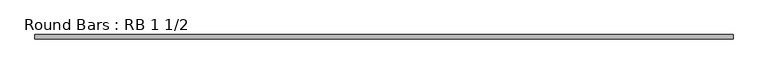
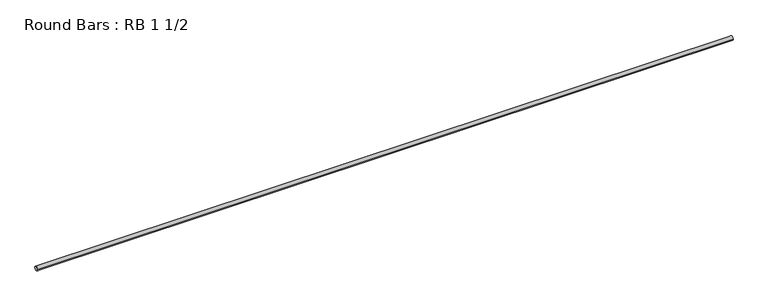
"""IFC4 building model written with IfcOpenShell, lengths in millimetres: member geometry, Round Bars : RB 1 1/2."""

import ifcopenshell
import ifcopenshell.guid

model = None  # the IFC model being written
_history = None  # IfcOwnerHistory: only IFC2X3 demands one
_inside = {}  # id of a spatial element -> (the spatial element, [elements in it])
_under = {}  # id of a project, library or spatial element -> (it, [spatial elements below it])
_declared = {}  # id of a project -> (the project, [libraries it declares])
_typed = {}  # id of a type object -> (the type object, [elements of that type])
_made_of = {}  # id of a material, layer set ... -> (it, [elements and type objects made of it])


def new_model(schema):
    """Start an empty IFC model of exactly this schema.

    Asked for "IFC4X3", IfcOpenShell would pick the latest addendum, in which some entities
    have other attributes; the version numbers below select the first issue.
    IFC2X3 requires an IfcOwnerHistory on every rooted entity: one is made here for all.
    """
    global model, _history
    if schema == "IFC4X3":
        model = ifcopenshell.file(schema_version=(4, 3, 0, 0))
    else:
        model = ifcopenshell.file(schema=schema)
    _inside.clear()
    _under.clear()
    _declared.clear()
    _typed.clear()
    _made_of.clear()
    _history = None
    if model.schema == "IFC2X3":
        org = make("IfcOrganization", Name="unknown")
        user = make(
            "IfcPersonAndOrganization",
            ThePerson=make("IfcPerson", FamilyName="unknown"),
            TheOrganization=org,
        )
        app = make(
            "IfcApplication",
            ApplicationDeveloper=org,
            Version="unknown",
            ApplicationFullName="unknown",
            ApplicationIdentifier="unknown",
        )
        _history = make(
            "IfcOwnerHistory",
            OwningUser=user,
            OwningApplication=app,
            ChangeAction="ADDED",
            CreationDate=0,
        )
    return model


def make(cls, **values):
    """One entity of the class cls with the attributes given. An attribute that is None is left unset."""
    return model.create_entity(
        cls, **{name: value for name, value in values.items() if value is not None}
    )


def rooted(cls, **values):
    """An entity with a GlobalId (a new one), such as an element, a storey or a relation."""
    return make(cls, GlobalId=ifcopenshell.guid.new(), OwnerHistory=_history, **values)


def si_unit(unit_type, name, prefix=None):
    """IfcSIUnit, for example si_unit("LENGTHUNIT", "METRE", prefix="MILLI")."""
    return make("IfcSIUnit", UnitType=unit_type, Prefix=prefix, Name=name)


def assignment(units):
    """IfcUnitAssignment: the units of a project."""
    return None if units is None else make("IfcUnitAssignment", Units=units)


def point(xyz):
    """IfcCartesianPoint."""
    return None if xyz is None else make("IfcCartesianPoint", Coordinates=xyz)


def direction(xyz):
    """IfcDirection."""
    return None if xyz is None else make("IfcDirection", DirectionRatios=xyz)


def frame(location, z_axis=None, x_axis=None):
    """IfcAxis2Placement3D, a coordinate frame: its origin and axes. An axis left out is left unset."""
    return make(
        "IfcAxis2Placement3D",
        Location=point(location),
        Axis=direction(z_axis),
        RefDirection=direction(x_axis),
    )


def frame_2d(location, x_axis=None):
    """IfcAxis2Placement2D, a coordinate frame in the plane: its origin and x axis."""
    return make(
        "IfcAxis2Placement2D", Location=point(location), RefDirection=direction(x_axis)
    )


def origin():
    """The frame at (0, 0, 0) with its axes left unset."""
    return frame((0.0, 0.0, 0.0))


def origin_2d():
    """The frame at (0, 0) in the plane with its x axis left unset."""
    return frame_2d((0.0, 0.0))


def place(relative_to, where):
    """IfcLocalPlacement: puts the frame where relative to a parent placement (None: the world)."""
    return make(
        "IfcLocalPlacement", PlacementRelTo=relative_to, RelativePlacement=where
    )


def context(
    kind, dimensions, precision=None, world=None, true_north=None, identifier=None
):
    """IfcGeometricRepresentationContext, for example the 3D "Model" context."""
    return make(
        "IfcGeometricRepresentationContext",
        ContextIdentifier=identifier,
        ContextType=kind,
        CoordinateSpaceDimension=dimensions,
        Precision=precision,
        WorldCoordinateSystem=world,
        TrueNorth=true_north,
    )


def project(units=None, contexts=None):
    """IfcProject with its units and contexts."""
    return rooted(
        "IfcProject",
        Name="project",
        RepresentationContexts=contexts,
        UnitsInContext=assignment(units),
    )


def spatial(cls, under=None, at=None, **own):
    """A site, building, storey or space (cls), placed at a placement, below another one or the project."""
    s = rooted(cls, ObjectPlacement=at, **own)
    if under is not None:
        _under.setdefault(under.id(), (under, []))[1].append(s)
    return s


def circle_curve(where, radius):
    """IfcCircle in the frame where."""
    return make("IfcCircle", Position=where, Radius=radius)


def trimmed(basis, trim1, trim2, sense, master):
    """IfcTrimmedCurve: the piece of a basis curve between two trims."""
    return make(
        "IfcTrimmedCurve",
        BasisCurve=basis,
        Trim1=trim1,
        Trim2=trim2,
        SenseAgreement=sense,
        MasterRepresentation=master,
    )


def segment(curve, same_sense, transition):
    """IfcCompositeCurveSegment."""
    return make(
        "IfcCompositeCurveSegment",
        Transition=transition,
        SameSense=same_sense,
        ParentCurve=curve,
    )


def composite_curve(segments, self_intersect=None):
    """IfcCompositeCurve: segments joined end to end."""
    return make("IfcCompositeCurve", Segments=segments, SelfIntersect=self_intersect)


def outline(outer, holes=None, kind="AREA"):
    """IfcArbitraryClosedProfileDef: a profile drawn as a closed curve; with holes, ...WithVoids."""
    if holes is None:
        return make("IfcArbitraryClosedProfileDef", ProfileType=kind, OuterCurve=outer)
    return make(
        "IfcArbitraryProfileDefWithVoids",
        ProfileType=kind,
        OuterCurve=outer,
        InnerCurves=holes,
    )


def extrude(swept, where, along, depth):
    """IfcExtrudedAreaSolid: the profile swept, set in the frame where, extruded along a direction by depth."""
    return make(
        "IfcExtrudedAreaSolid",
        SweptArea=swept,
        Position=where,
        ExtrudedDirection=direction(along),
        Depth=depth,
    )


def shape(context_of_items, identifier, shape_type, items):
    """IfcShapeRepresentation: the items that make up one representation, for example the "Body"."""
    return make(
        "IfcShapeRepresentation",
        ContextOfItems=context_of_items,
        RepresentationIdentifier=identifier,
        RepresentationType=shape_type,
        Items=items,
    )


def source(mapping_origin, context_of_items, identifier, shape_type, items):
    """IfcRepresentationMap: a shape defined once, which mapped items show again and again."""
    return make(
        "IfcRepresentationMap",
        MappingOrigin=mapping_origin,
        MappedRepresentation=shape(context_of_items, identifier, shape_type, items),
    )


def transform(
    local_origin,
    x_axis=None,
    y_axis=None,
    z_axis=None,
    scale=None,
    scale2=None,
    scale3=None,
    uniform=True,
):
    """IfcCartesianTransformationOperator3D, or its non-uniform kind. x_axis, y_axis, z_axis: its Axis1, 2, 3."""
    if uniform:
        return make(
            "IfcCartesianTransformationOperator3D",
            Axis1=direction(x_axis),
            Axis2=direction(y_axis),
            LocalOrigin=point(local_origin),
            Scale=scale,
            Axis3=direction(z_axis),
        )
    return make(
        "IfcCartesianTransformationOperator3DnonUniform",
        Axis1=direction(x_axis),
        Axis2=direction(y_axis),
        LocalOrigin=point(local_origin),
        Scale=scale,
        Axis3=direction(z_axis),
        Scale2=scale2,
        Scale3=scale3,
    )


def mapped(mapping_source, mapping_target):
    """IfcMappedItem: shows the shape of a source again, moved by a transform."""
    return make(
        "IfcMappedItem", MappingSource=mapping_source, MappingTarget=mapping_target
    )


def made_of(thing, what):
    """Note that an element or type object is made of a material, layer set ...; save() writes the relation."""
    if what is not None:
        _made_of.setdefault(what.id(), (what, []))[1].append(thing)
    return thing


def element(
    cls,
    number,
    at=None,
    inside=None,
    cuts=None,
    type_object=None,
    material=None,
    context=None,
    identifier="Body",
    shape_type=None,
    held_by="IfcProductDefinitionShape",
    body=None,
    shapes=None,
    **own,
):
    """One element of the class cls, such as IfcWall. Its Tag is "e" and its number.

    at: its placement. inside: the storey or other place that contains it. cuts: it is an
    opening in that element (IfcRelVoidsElement). A single representation is given by context,
    identifier, shape_type and body (its items); several are given by shapes. held_by: the class
    of the entity that holds the representations. save() writes the other relations.
    """
    e = rooted(cls, Tag="e%d" % number, ObjectPlacement=at, **own)
    if body is not None:
        shapes = [shape(context, identifier, shape_type, body)]
    if shapes is not None:
        e.Representation = make(held_by, Representations=shapes)
    if inside is not None:
        _inside.setdefault(inside.id(), (inside, []))[1].append(e)
    if cuts is not None:
        rooted(
            "IfcRelVoidsElement", RelatingBuildingElement=cuts, RelatedOpeningElement=e
        )
    if type_object is not None:
        _typed.setdefault(type_object.id(), (type_object, []))[1].append(e)
    return made_of(e, material)


def aggregate(whole, parts):
    """IfcRelAggregates: a whole, such as a stair, and the parts it consists of."""
    return rooted("IfcRelAggregates", RelatingObject=whole, RelatedObjects=parts)


def save(model, path):
    """Write the relations noted so far, then the file.

    IfcRelAggregates (storeys below a building ...), IfcRelContainedInSpatialStructure (elements
    in a storey), IfcRelDefinesByType, IfcRelAssociatesMaterial and IfcRelDeclares: one each for
    every whole, place, type object, material and project.
    """
    for whole, parts in _under.values():
        aggregate(whole, parts)
    for where, things in _inside.values():
        rooted(
            "IfcRelContainedInSpatialStructure",
            RelatedElements=things,
            RelatingStructure=where,
        )
    for kind, things in _typed.values():
        rooted("IfcRelDefinesByType", RelatedObjects=things, RelatingType=kind)
    for what, things in _made_of.values():
        rooted("IfcRelAssociatesMaterial", RelatedObjects=things, RelatingMaterial=what)
    for by, libraries in _declared.values():
        rooted("IfcRelDeclares", RelatingContext=by, RelatedDefinitions=libraries)
    model.write(path)


def round_bars_rb_1_1_2_bb9791f2(model_context):
    return source(origin(), model_context, "Body", "SweptSolid", [
        extrude(outline(composite_curve([segment(trimmed(circle_curve(origin_2d(), 19.05), [point((19.05, 0.0))], [point((-19.05, 0.0))], False, "CARTESIAN"), True, "CONTINUOUS"), segment(trimmed(circle_curve(origin_2d(), 19.05), [point((-19.05, 0.0))], [point((19.05, 0.0))], False, "CARTESIAN"), True, "CONTINUOUS")], self_intersect=False)), frame((-3103.7114, 0.0, 0.0), z_axis=(1.0, 0.0, 0.0), x_axis=(0.0, 1.0, 0.0)), (0.0, 0.0, 1.0), 6243.7602778),
    ])


if __name__ == "__main__":
    model = new_model("IFC4")
    model_context = context("Model", 3, world=origin())
    ifc_project = project(units=[si_unit("LENGTHUNIT", "METRE", prefix="MILLI")], contexts=[model_context])
    site = spatial("IfcSite", under=ifc_project)
    building = spatial("IfcBuilding", under=site)
    placement = place(None, origin())
    round_bars_rb_1_1_2_shape = round_bars_rb_1_1_2_bb9791f2(model_context)
    element("IfcMember", 1, ObjectType="Round Bars : RB 1 1/2", at=placement, inside=building, context=model_context, shape_type="MappedRepresentation", body=[
        mapped(round_bars_rb_1_1_2_shape, transform((0.0, 0.0, 0.0), x_axis=(1.0, 0.0, 0.0), y_axis=(0.0, 1.0, 0.0), z_axis=(0.0, 0.0, 1.0))),
    ])
    save(model, "model.ifc")
